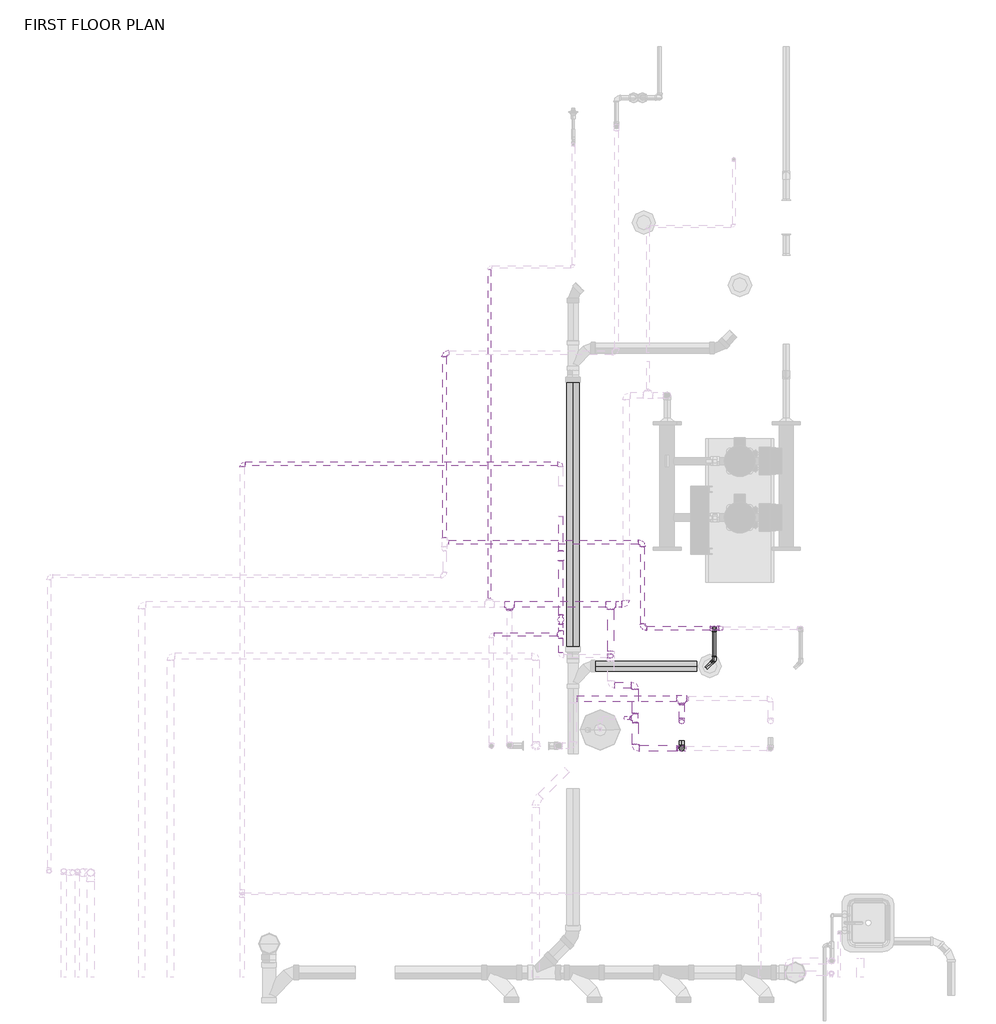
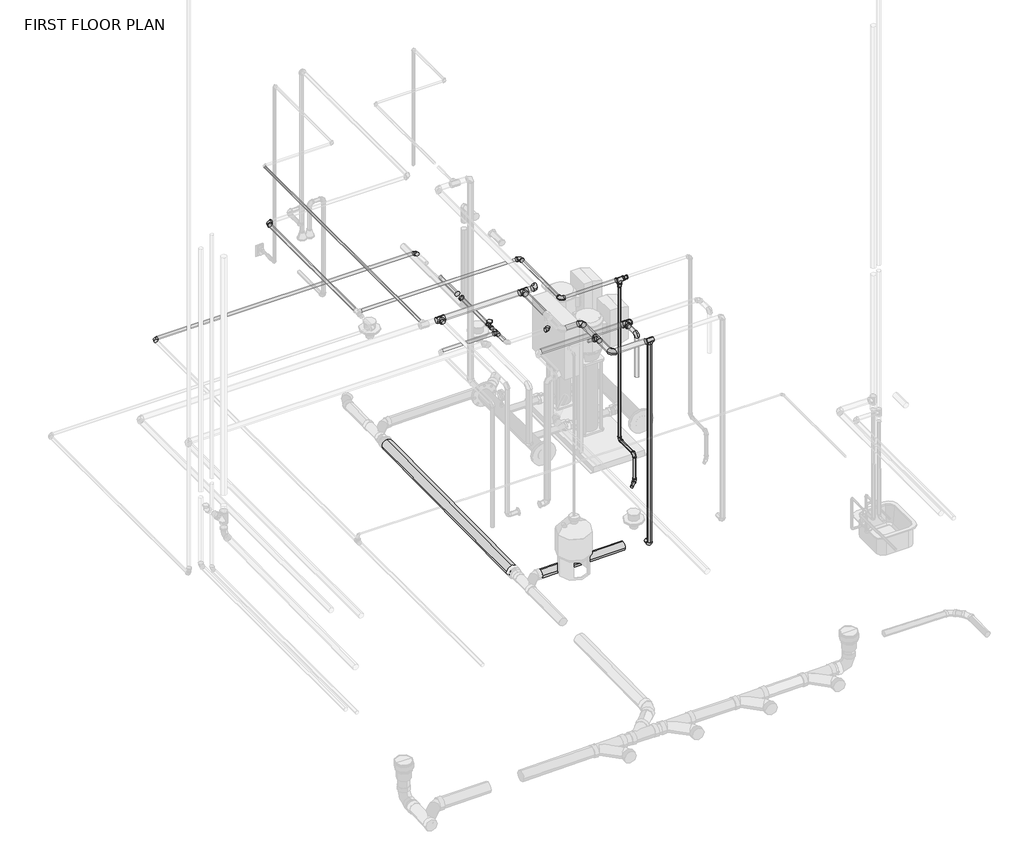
# One storey, part 19 of 29: 32 pipe fittings, 30 pipe segments, 1 valve.
"""IFC4 building model written with IfcOpenShell, lengths in millimetres."""

from ifc_helpers import new_model, si_unit, point, frame, frame_2d, origin, place, context, project, spatial, circle_curve, trimmed, segment, composite_curve, outline, extrude, transform, mapped, element, save
from components import coupling_concentric_reducing_threaded_mi_class_150_standard_65733dbc, elbow_threaded_mi_class_150_standard_9e2fd9b8, elbow_threaded_mi_class_150_standard_46a92b09, pipe_elbow_copper_k_ef41bb3a, pipe_elbow_copper_k_764eecca, pipe_elbow_copper_k_aee2f062, pipe_elbow_copper_k_8886f3b6, pipe_tee_copper_k_36278b8a, pipe_tee_copper_k_7127fd44, pipe_tee_copper_k_60c871d1, pipe_transition_copper_k_c7248b3c, pipe_transition_copper_k_3b8d3413, pipe_transition_copper_k_b52e50c0, pipe_transition_copper_k_77f86d4a, pipe_transition_copper_k_a267e643, tee_threaded_mi_class_150_standard_96690291, valve_95e27cf5

model = new_model("IFC4")

# Units and contexts
model_context = context("Model", 3, world=origin())
ifc_project = project(units=[si_unit("LENGTHUNIT", "METRE", prefix="MILLI")], contexts=[model_context])

# Site, building, storey
site = spatial("IfcSite", under=ifc_project)
building = spatial("IfcBuilding", under=site)
storey = spatial("IfcBuildingStorey", under=building, Name="FIRST FLOOR PLAN", Elevation=0.0)

# Pipe fittings
placement = place(None, origin())
coupling_concentric_reducing_threaded_mi_class_150_standard_shape = coupling_concentric_reducing_threaded_mi_class_150_standard_65733dbc(model_context)
element("IfcPipeFitting", 1, ObjectType="Coupling Concentric Reducing - Threaded - MI - Class 150 : Standard", at=placement, inside=storey, context=model_context, shape_type="MappedRepresentation", body=[
    mapped(coupling_concentric_reducing_threaded_mi_class_150_standard_shape, transform((15904.1804028, 11079.5921575, 2400.3), x_axis=(0.0, 0.0, -1.0), y_axis=(1.0, 0.0, 0.0), z_axis=(0.0, -1.0, 0.0))),
])
element("IfcPipeFitting", 2, ObjectType="Coupling Concentric Reducing - Threaded - MI - Class 150 : Standard", at=placement, inside=storey, context=model_context, shape_type="MappedRepresentation", body=[
    mapped(coupling_concentric_reducing_threaded_mi_class_150_standard_shape, transform((15942.2804028, 11079.5921575, 2438.4), x_axis=(1.0, 0.0, 0.0), y_axis=(0.0, 1.0, 0.0), z_axis=(0.0, 0.0, 1.0))),
])
elbow_threaded_mi_class_150_standard_shape = elbow_threaded_mi_class_150_standard_9e2fd9b8(model_context)
element("IfcPipeFitting", 3, ObjectType="Elbow - Threaded - MI - Class 150 : Standard", at=placement, inside=storey, context=model_context, shape_type="MappedRepresentation", body=[
    mapped(elbow_threaded_mi_class_150_standard_shape, transform((13511.8066918, 13522.1677357, 2438.4), x_axis=(-1.0, 0.0, 0.0), y_axis=(0.0, -1.0, 0.0), z_axis=(0.0, 0.0, 1.0))),
])
element("IfcPipeFitting", 4, ObjectType="Elbow - Threaded - MI - Class 150 : Standard", at=placement, inside=storey, context=model_context, shape_type="MappedRepresentation", body=[
    mapped(elbow_threaded_mi_class_150_standard_shape, transform((15267.5141549, 11841.5921575, 2438.4), x_axis=(0.0, 1.0, 0.0), y_axis=(-1.0, 0.0, 0.0), z_axis=(0.0, 0.0, 1.0))),
])
element("IfcPipeFitting", 5, ObjectType="Elbow - Threaded - MI - Class 150 : Standard", at=placement, inside=storey, context=model_context, shape_type="MappedRepresentation", body=[
    mapped(elbow_threaded_mi_class_150_standard_shape, transform((15267.5141549, 11079.5921575, 2438.4), x_axis=(0.0, -1.0, 0.0), y_axis=(1.0, 0.0, 0.0), z_axis=(0.0, 0.0, 1.0))),
])
elbow_threaded_mi_class_150_standard_2_shape = elbow_threaded_mi_class_150_standard_46a92b09(model_context)
element("IfcPipeFitting", 6, ObjectType="Elbow - Threaded - MI - Class 150 : Standard", at=placement, inside=storey, context=model_context, shape_type="MappedRepresentation", body=[
    mapped(elbow_threaded_mi_class_150_standard_2_shape, transform((15904.1804028, 11079.5921575, 609.6), x_axis=(0.0, 0.0, -1.0), y_axis=(0.0, -1.0, 0.0), z_axis=(-1.0, 0.0, 0.0))),
])
element("IfcPipeFitting", 7, ObjectType="Elbow - Threaded - MI - Class 150 : Standard", at=placement, inside=storey, context=model_context, shape_type="MappedRepresentation", body=[
    mapped(elbow_threaded_mi_class_150_standard_2_shape, transform((15904.1804028, 10798.9517649, 609.6), x_axis=(0.0, -1.0, 0.0), y_axis=(0.0, 0.0, -1.0), z_axis=(1.0, 0.0, 0.0))),
])
element("IfcPipeFitting", 8, ObjectType="Elbow - Threaded - MI - Class 150 : Standard", at=placement, inside=storey, context=model_context, shape_type="MappedRepresentation", body=[
    mapped(elbow_threaded_mi_class_150_standard_2_shape, transform((15904.1804028, 10798.9517649, 304.8), x_axis=(0.0, 0.0, -1.0), y_axis=(-0.7071067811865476, -0.7071067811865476, 0.0), z_axis=(-0.7071067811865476, 0.7071067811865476, 0.0))),
])
pipe_elbow_copper_k_shape = pipe_elbow_copper_k_ef41bb3a(model_context)
element("IfcPipeFitting", 9, ObjectType="Pipe Elbow : Copper- K", at=placement, inside=storey, context=model_context, shape_type="MappedRepresentation", body=[
    mapped(pipe_elbow_copper_k_shape, transform((15614.8481736, 10252.0984616, 2414.5037698), x_axis=(0.0, 0.0, 1.0), y_axis=(0.0, 1.0, 0.0), z_axis=(-1.0, 0.0, 0.0))),
])
pipe_elbow_copper_k_2_shape = pipe_elbow_copper_k_764eecca(model_context)
element("IfcPipeFitting", 10, ObjectType="Pipe Elbow : Copper- K", at=placement, inside=storey, context=model_context, shape_type="MappedRepresentation", body=[
    mapped(pipe_elbow_copper_k_2_shape, transform((15202.6324201, 10014.086218, 2490.6982599), x_axis=(0.0, -0.9999999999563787, 9.34038010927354e-06), y_axis=(1.0, 0.0, 0.0), z_axis=(0.0, 9.34038010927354e-06, 0.9999999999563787))),
])
element("IfcPipeFitting", 11, ObjectType="Pipe Elbow : Copper- K", at=placement, inside=storey, context=model_context, shape_type="MappedRepresentation", body=[
    mapped(pipe_elbow_copper_k_2_shape, transform((15202.6324201, 10574.8699379, 2490.689426), x_axis=(0.0, 0.9999999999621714, -8.698119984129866e-06), y_axis=(-0.9999999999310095, -1.0217276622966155e-10, -1.1746534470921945e-05), z_axis=(-1.17465344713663e-05, 8.698119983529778e-06, 0.9999999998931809))),
])
element("IfcPipeFitting", 12, ObjectType="Pipe Elbow : Copper- K", at=placement, inside=storey, context=model_context, shape_type="MappedRepresentation", body=[
    mapped(pipe_elbow_copper_k_2_shape, transform((15121.1356736, 11290.0175381, 2490.6882844), x_axis=(0.9999999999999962, 0.0, 8.718107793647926e-08), y_axis=(0.0, 0.9999999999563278, -9.345825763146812e-06), z_axis=(-8.718107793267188e-08, 9.345825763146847e-06, 0.999999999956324))),
])
pipe_elbow_copper_k_3_shape = pipe_elbow_copper_k_aee2f062(model_context)
element("IfcPipeFitting", 13, ObjectType="Pipe Elbow : Copper- K", at=placement, inside=storey, context=model_context, shape_type="MappedRepresentation", body=[
    mapped(pipe_elbow_copper_k_3_shape, transform((11717.5356736, 12535.6137881, 2336.8), x_axis=(-1.0, 0.0, 0.0), y_axis=(0.0, -1.0, 0.0), z_axis=(0.0, 0.0, 1.0))),
])
element("IfcPipeFitting", 14, ObjectType="Pipe Elbow : Copper- K", at=placement, inside=storey, context=model_context, shape_type="MappedRepresentation", body=[
    mapped(pipe_elbow_copper_k_3_shape, transform((14543.6141549, 12535.6137881, 2336.8), x_axis=(0.0, 1.0, 0.0), y_axis=(-1.0, 0.0, 0.0), z_axis=(0.0, 0.0, 1.0))),
])
element("IfcPipeFitting", 15, ObjectType="Pipe Elbow : Copper- K", at=placement, inside=storey, context=model_context, shape_type="MappedRepresentation", body=[
    mapped(pipe_elbow_copper_k_3_shape, transform((14986.1084875, 10833.0897034, 2336.8), x_axis=(0.0, 0.0, -1.0), y_axis=(-1.0, 0.0, 0.0), z_axis=(0.0, 1.0, 0.0))),
])
pipe_elbow_copper_k_4_shape = pipe_elbow_copper_k_8886f3b6(model_context)
element("IfcPipeFitting", 16, ObjectType="Pipe Elbow : Copper- K", at=placement, inside=storey, context=model_context, shape_type="MappedRepresentation", body=[
    mapped(pipe_elbow_copper_k_4_shape, transform((15614.8481736, 10014.0854659, 160.02), x_axis=(0.0, -3.278364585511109e-07, -0.9999999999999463), y_axis=(0.0, 0.9999999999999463, -3.278364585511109e-07), z_axis=(1.0, 0.0, 0.0))),
])
pipe_tee_copper_k_shape = pipe_tee_copper_k_36278b8a(model_context)
element("IfcPipeFitting", 17, ObjectType="Pipe Tee : Copper- K", at=placement, inside=storey, context=model_context, shape_type="MappedRepresentation", body=[
    mapped(pipe_tee_copper_k_shape, transform((15614.8481736, 10455.3394457, 2413.0), x_axis=(1.0, 0.0, 0.0), y_axis=(0.0, 0.9999998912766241, 0.0004663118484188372), z_axis=(0.0, -0.0004663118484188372, 0.9999998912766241))),
])
element("IfcPipeFitting", 18, ObjectType="Pipe Tee : Copper- K", at=placement, inside=storey, context=model_context, shape_type="MappedRepresentation", body=[
    mapped(pipe_tee_copper_k_shape, transform((14986.1084875, 11290.0175381, 2490.6882727), x_axis=(0.9999999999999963, 0.0, 8.718104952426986e-08), y_axis=(0.0, 0.9999999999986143, 1.66482462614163e-06), z_axis=(-8.718104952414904e-08, -1.664824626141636e-06, 0.9999999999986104))),
])
element("IfcPipeFitting", 19, ObjectType="Pipe Tee : Copper- K", at=placement, inside=storey, context=model_context, shape_type="MappedRepresentation", body=[
    mapped(pipe_tee_copper_k_shape, transform((14088.7887855, 11290.0175381, 2490.6882449), x_axis=(0.9999999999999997, 0.0, 2.8094546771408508e-08), y_axis=(0.0, 1.0, -1.6765756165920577e-08), z_axis=(-2.8094546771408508e-08, 1.6765756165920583e-08, 0.9999999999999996))),
])
pipe_tee_copper_k_2_shape = pipe_tee_copper_k_7127fd44(model_context)
element("IfcPipeFitting", 20, ObjectType="Pipe Tee : Copper- K", at=placement, inside=storey, context=model_context, shape_type="MappedRepresentation", body=[
    mapped(pipe_tee_copper_k_2_shape, transform((15614.8481736, 10014.086218, 2490.7000626), x_axis=(1.0, 0.0, 0.0), y_axis=(0.0, 0.0, 1.0), z_axis=(0.0, -1.0, 0.0))),
])
element("IfcPipeFitting", 21, ObjectType="Pipe Tee : Copper- K", at=placement, inside=storey, context=model_context, shape_type="MappedRepresentation", body=[
    mapped(pipe_tee_copper_k_2_shape, transform((15202.6324201, 10282.5918722, 2490.695752), x_axis=(0.0, -0.9999999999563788, 9.340380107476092e-06), y_axis=(1.0000000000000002, 0.0, 0.0), z_axis=(0.0, 9.340380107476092e-06, 0.9999999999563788))),
])
pipe_tee_copper_k_3_shape = pipe_tee_copper_k_60c871d1(model_context)
element("IfcPipeFitting", 22, ObjectType="Pipe Tee : Copper- K", at=placement, inside=storey, context=model_context, shape_type="MappedRepresentation", body=[
    mapped(pipe_tee_copper_k_3_shape, transform((14543.6141549, 11023.3898528, 2336.8), x_axis=(0.0, 1.0, 0.0), y_axis=(1.0, 0.0, 0.0), z_axis=(0.0, 0.0, -1.0))),
])
pipe_transition_copper_k_shape = pipe_transition_copper_k_c7248b3c(model_context)
element("IfcPipeFitting", 23, ObjectType="Pipe Transition : Copper- K", at=placement, inside=storey, context=model_context, shape_type="MappedRepresentation", body=[
    mapped(pipe_transition_copper_k_shape, transform((15578.3356736, 10014.086218, 2490.7000626), x_axis=(-1.0, 0.0, 0.0), y_axis=(0.0, -1.0, 0.0), z_axis=(0.0, 0.0, 1.0))),
])
element("IfcPipeFitting", 24, ObjectType="Pipe Transition : Copper- K", at=placement, inside=storey, context=model_context, shape_type="MappedRepresentation", body=[
    mapped(pipe_transition_copper_k_shape, transform((15202.6324201, 10319.1043722, 2490.695411), x_axis=(0.0, 0.9999999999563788, -9.340380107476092e-06), y_axis=(-1.0000000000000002, 0.0, 0.0), z_axis=(0.0, 9.340380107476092e-06, 0.9999999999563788))),
])
element("IfcPipeFitting", 25, ObjectType="Pipe Transition : Copper- K", at=placement, inside=storey, context=model_context, shape_type="MappedRepresentation", body=[
    mapped(pipe_transition_copper_k_shape, transform((15202.6324201, 10246.0793722, 2490.696093), x_axis=(0.0, -0.9999999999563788, 9.340380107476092e-06), y_axis=(1.0000000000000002, 0.0, 0.0), z_axis=(0.0, 9.340380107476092e-06, 0.9999999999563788))),
])
pipe_transition_copper_k_2_shape = pipe_transition_copper_k_3b8d3413(model_context)
element("IfcPipeFitting", 26, ObjectType="Pipe Transition : Copper- K", at=placement, inside=storey, context=model_context, shape_type="MappedRepresentation", body=[
    mapped(pipe_transition_copper_k_2_shape, transform((15657.7106736, 10455.3394457, 2413.0), x_axis=(1.0, 0.0, 0.0), y_axis=(0.0, 0.9999998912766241, 0.0004663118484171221), z_axis=(0.0, -0.0004663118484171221, 0.9999998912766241))),
])
element("IfcPipeFitting", 27, ObjectType="Pipe Transition : Copper- K", at=placement, inside=storey, context=model_context, shape_type="MappedRepresentation", body=[
    mapped(pipe_transition_copper_k_2_shape, transform((15614.8481736, 10412.4769503, 2412.9800127), x_axis=(0.0, -0.9999998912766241, -0.0004663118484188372), y_axis=(1.0, 0.0, 0.0), z_axis=(0.0, -0.0004663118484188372, 0.9999998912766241))),
])
pipe_transition_copper_k_3_shape = pipe_transition_copper_k_b52e50c0(model_context)
element("IfcPipeFitting", 28, ObjectType="Pipe Transition : Copper- K", at=placement, inside=storey, context=model_context, shape_type="MappedRepresentation", body=[
    mapped(pipe_transition_copper_k_3_shape, transform((14543.6141549, 11766.890851, 2336.8), x_axis=(0.0, -1.0, 0.0), y_axis=(1.0, 0.0, 0.0), z_axis=(0.0, 0.0, 1.0))),
])
element("IfcPipeFitting", 29, ObjectType="Pipe Transition : Copper- K", at=placement, inside=storey, context=model_context, shape_type="MappedRepresentation", body=[
    mapped(pipe_transition_copper_k_3_shape, transform((14543.6141549, 11675.673101, 2336.8), x_axis=(0.0, 1.0, 0.0), y_axis=(-1.0, 0.0, 0.0), z_axis=(0.0, 0.0, 1.0))),
])
pipe_transition_copper_k_4_shape = pipe_transition_copper_k_77f86d4a(model_context)
element("IfcPipeFitting", 30, ObjectType="Pipe Transition : Copper- K", at=placement, inside=storey, context=model_context, shape_type="MappedRepresentation", body=[
    mapped(pipe_transition_copper_k_4_shape, transform((15166.1199201, 10282.5918722, 2490.695752), x_axis=(-1.0, 0.0, 0.0), y_axis=(0.0, -0.9999999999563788, 9.340380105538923e-06), z_axis=(0.0, 9.340380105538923e-06, 0.9999999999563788))),
])
pipe_transition_copper_k_5_shape = pipe_transition_copper_k_a267e643(model_context)
element("IfcPipeFitting", 31, ObjectType="Pipe Transition : Copper- K", at=placement, inside=storey, context=model_context, shape_type="MappedRepresentation", body=[
    mapped(pipe_transition_copper_k_5_shape, transform((14088.7887855, 11247.1550381, 2490.6882456), x_axis=(0.0, -1.0, 1.6765756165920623e-08), y_axis=(0.9999999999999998, 0.0, 2.8094544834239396e-08), z_axis=(-2.8094544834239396e-08, 1.6765756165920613e-08, 0.9999999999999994))),
])
tee_threaded_mi_class_150_standard_shape = tee_threaded_mi_class_150_standard_96690291(model_context)
element("IfcPipeFitting", 32, ObjectType="Tee - Threaded - MI - Class 150 : Standard", at=placement, inside=storey, context=model_context, shape_type="MappedRepresentation", body=[
    mapped(tee_threaded_mi_class_150_standard_shape, transform((15904.1804028, 11079.5921575, 2438.4), x_axis=(-1.0, 0.0, 0.0), y_axis=(0.0, 0.0, 1.0), z_axis=(0.0, 1.0, 0.0))),
])

# Pipe segments
element("IfcPipeSegment", 33, ObjectType="Black Iron - GAS", at=placement, inside=storey, context=model_context, shape_type="SweptSolid", body=[
    extrude(outline(composite_curve([segment(trimmed(circle_curve(frame_2d((11841.5921575, 2438.4)), 16.7005), [point((11824.8916575, 2438.4))], [point((11841.5921575, 2455.1005))], False, "CARTESIAN"), True, "CONTINUOUS"), segment(trimmed(circle_curve(frame_2d((11841.5921575, 2438.4)), 16.7005), [point((11841.5921575, 2455.1005))], [point((11858.2926575, 2438.4))], False, "CARTESIAN"), True, "CONTINUOUS"), segment(trimmed(circle_curve(frame_2d((11841.5921575, 2438.4)), 16.7005), [point((11858.2926575, 2438.4))], [point((11841.5921575, 2421.6995))], False, "CARTESIAN"), True, "CONTINUOUS"), segment(trimmed(circle_curve(frame_2d((11841.5921575, 2438.4)), 16.7005), [point((11841.5921575, 2421.6995))], [point((11824.8916575, 2438.4))], False, "CARTESIAN"), True, "CONTINUOUS")], self_intersect=False)), frame((13549.9066918, 0.0, 0.0), z_axis=(1.0, 0.0, 0.0), x_axis=(0.0, 1.0, 0.0)), (0.0, 0.0, 1.0), 1679.5074631),
])
element("IfcPipeSegment", 34, ObjectType="Black Iron - GAS", at=placement, inside=storey, context=model_context, shape_type="SweptSolid", body=[
    extrude(outline(composite_curve([segment(trimmed(circle_curve(frame_2d((2438.4, 13511.8066918)), 16.7005), [point((2438.4, 13495.1061918))], [point((2421.6995, 13511.8066918))], False, "CARTESIAN"), True, "CONTINUOUS"), segment(trimmed(circle_curve(frame_2d((2438.4, 13511.8066918)), 16.7005), [point((2421.6995, 13511.8066918))], [point((2438.4, 13528.5071918))], False, "CARTESIAN"), True, "CONTINUOUS"), segment(trimmed(circle_curve(frame_2d((2438.4, 13511.8066918)), 16.7005), [point((2438.4, 13528.5071918))], [point((2455.1005, 13511.8066918))], False, "CARTESIAN"), True, "CONTINUOUS"), segment(trimmed(circle_curve(frame_2d((2438.4, 13511.8066918)), 16.7005), [point((2455.1005, 13511.8066918))], [point((2438.4, 13495.1061918))], False, "CARTESIAN"), True, "CONTINUOUS")], self_intersect=False)), frame((0.0, 11879.6921575, 0.0), z_axis=(0.0, 1.0, 0.0), x_axis=(0.0, 0.0, 1.0)), (0.0, 0.0, 1.0), 1604.3755782),
])
element("IfcPipeSegment", 35, ObjectType="Black Iron - GAS", at=placement, inside=storey, context=model_context, shape_type="SweptSolid", body=[
    extrude(outline(composite_curve([segment(trimmed(circle_curve(frame_2d((2438.4, 15267.5141549)), 16.7005), [point((2438.4, 15250.8136549))], [point((2421.6995, 15267.5141549))], False, "CARTESIAN"), True, "CONTINUOUS"), segment(trimmed(circle_curve(frame_2d((2438.4, 15267.5141549)), 16.7005), [point((2421.6995, 15267.5141549))], [point((2438.4, 15284.2146549))], False, "CARTESIAN"), True, "CONTINUOUS"), segment(trimmed(circle_curve(frame_2d((2438.4, 15267.5141549)), 16.7005), [point((2438.4, 15284.2146549))], [point((2455.1005, 15267.5141549))], False, "CARTESIAN"), True, "CONTINUOUS"), segment(trimmed(circle_curve(frame_2d((2438.4, 15267.5141549)), 16.7005), [point((2455.1005, 15267.5141549))], [point((2438.4, 15250.8136549))], False, "CARTESIAN"), True, "CONTINUOUS")], self_intersect=False)), frame((0.0, 11117.6921575, 0.0), z_axis=(0.0, 1.0, 0.0), x_axis=(0.0, 0.0, 1.0)), (0.0, 0.0, 1.0), 685.8),
])
element("IfcPipeSegment", 36, ObjectType="Black Iron - GAS", at=placement, inside=storey, context=model_context, shape_type="SweptSolid", body=[
    extrude(outline(composite_curve([segment(trimmed(circle_curve(frame_2d((609.6, 15904.1804028)), 13.335), [point((609.6, 15890.8454028))], [point((596.265, 15904.1804028))], False, "CARTESIAN"), True, "CONTINUOUS"), segment(trimmed(circle_curve(frame_2d((609.6, 15904.1804028)), 13.335), [point((596.265, 15904.1804028))], [point((609.6, 15917.5154028))], False, "CARTESIAN"), True, "CONTINUOUS"), segment(trimmed(circle_curve(frame_2d((609.6, 15904.1804028)), 13.335), [point((609.6, 15917.5154028))], [point((622.935, 15904.1804028))], False, "CARTESIAN"), True, "CONTINUOUS"), segment(trimmed(circle_curve(frame_2d((609.6, 15904.1804028)), 13.335), [point((622.935, 15904.1804028))], [point((609.6, 15890.8454028))], False, "CARTESIAN"), True, "CONTINUOUS")], self_intersect=False)), frame((0.0, 10832.2517649, 0.0), z_axis=(0.0, 1.0, 0.0), x_axis=(0.0, 0.0, 1.0)), (0.0, 0.0, 1.0), 214.0403926),
])
element("IfcPipeSegment", 37, ObjectType="Black Iron - GAS", at=placement, inside=storey, context=model_context, shape_type="SweptSolid", body=[
    extrude(outline(composite_curve([segment(trimmed(circle_curve(frame_2d((15904.1804028, 11079.5921575)), 13.335), [point((15917.5154028, 11079.5921575))], [point((15904.1804028, 11066.2571575))], False, "CARTESIAN"), True, "CONTINUOUS"), segment(trimmed(circle_curve(frame_2d((15904.1804028, 11079.5921575)), 13.335), [point((15904.1804028, 11066.2571575))], [point((15890.8454028, 11079.5921575))], False, "CARTESIAN"), True, "CONTINUOUS"), segment(trimmed(circle_curve(frame_2d((15904.1804028, 11079.5921575)), 13.335), [point((15890.8454028, 11079.5921575))], [point((15904.1804028, 11092.9271575))], False, "CARTESIAN"), True, "CONTINUOUS"), segment(trimmed(circle_curve(frame_2d((15904.1804028, 11079.5921575)), 13.335), [point((15904.1804028, 11092.9271575))], [point((15917.5154028, 11079.5921575))], False, "CARTESIAN"), True, "CONTINUOUS")], self_intersect=False)), frame((0.0, 0.0, 642.9), z_axis=(0.0, 0.0, 1.0), x_axis=(1.0, 0.0, 0.0)), (0.0, 0.0, 1.0), 1714.5),
])
element("IfcPipeSegment", 38, ObjectType="Black Iron - GAS", at=placement, inside=storey, context=model_context, shape_type="SweptSolid", body=[
    extrude(outline(composite_curve([segment(trimmed(circle_curve(frame_2d((11079.5921575, 2438.4)), 16.7005), [point((11062.8916575, 2438.4))], [point((11079.5921575, 2455.1005))], False, "CARTESIAN"), True, "CONTINUOUS"), segment(trimmed(circle_curve(frame_2d((11079.5921575, 2438.4)), 16.7005), [point((11079.5921575, 2455.1005))], [point((11096.2926575, 2438.4))], False, "CARTESIAN"), True, "CONTINUOUS"), segment(trimmed(circle_curve(frame_2d((11079.5921575, 2438.4)), 16.7005), [point((11096.2926575, 2438.4))], [point((11079.5921575, 2421.6995))], False, "CARTESIAN"), True, "CONTINUOUS"), segment(trimmed(circle_curve(frame_2d((11079.5921575, 2438.4)), 16.7005), [point((11079.5921575, 2421.6995))], [point((11062.8916575, 2438.4))], False, "CARTESIAN"), True, "CONTINUOUS")], self_intersect=False)), frame((15305.6141549, 0.0, 0.0), z_axis=(1.0, 0.0, 0.0), x_axis=(0.0, 1.0, 0.0)), (0.0, 0.0, 1.0), 560.4662479),
])
element("IfcPipeSegment", 39, ObjectType="Black Iron - GAS", at=placement, inside=storey, context=model_context, shape_type="SweptSolid", body=[
    extrude(outline(composite_curve([segment(trimmed(circle_curve(frame_2d((0.0, -13.335)), 13.335), [point((-13.335, -13.335))], [point((0.0, 0.0))], False, "CARTESIAN"), True, "CONTINUOUS"), segment(trimmed(circle_curve(frame_2d((0.0, -13.335)), 13.335), [point((0.0, 0.0))], [point((13.335, -13.335))], False, "CARTESIAN"), True, "CONTINUOUS"), segment(trimmed(circle_curve(frame_2d((0.0, -13.335)), 13.335), [point((13.335, -13.335))], [point((0.0, -26.67))], False, "CARTESIAN"), True, "CONTINUOUS"), segment(trimmed(circle_curve(frame_2d((0.0, -13.335)), 13.335), [point((0.0, -26.67))], [point((-13.335, -13.335))], False, "CARTESIAN"), True, "CONTINUOUS")], self_intersect=False)), frame((15832.3383539, 10727.109716, 291.465), z_axis=(0.7071067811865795, 0.7071067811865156, 0.0), x_axis=(0.7071067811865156, -0.7071067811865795, 0.0)), (0.0, 0.0, 1.0), 68.3),
])
element("IfcPipeSegment", 40, ObjectType="Black Iron - GAS", at=placement, inside=storey, context=model_context, shape_type="SweptSolid", body=[
    extrude(outline(composite_curve([segment(trimmed(circle_curve(frame_2d((15904.1804028, 10798.9517649)), 13.335), [point((15917.5154028, 10798.9517649))], [point((15904.1804028, 10785.6167649))], False, "CARTESIAN"), True, "CONTINUOUS"), segment(trimmed(circle_curve(frame_2d((15904.1804028, 10798.9517649)), 13.335), [point((15904.1804028, 10785.6167649))], [point((15890.8454028, 10798.9517649))], False, "CARTESIAN"), True, "CONTINUOUS"), segment(trimmed(circle_curve(frame_2d((15904.1804028, 10798.9517649)), 13.335), [point((15890.8454028, 10798.9517649))], [point((15904.1804028, 10812.2867649))], False, "CARTESIAN"), True, "CONTINUOUS"), segment(trimmed(circle_curve(frame_2d((15904.1804028, 10798.9517649)), 13.335), [point((15904.1804028, 10812.2867649))], [point((15917.5154028, 10798.9517649))], False, "CARTESIAN"), True, "CONTINUOUS")], self_intersect=False)), frame((0.0, 0.0, 338.1), z_axis=(0.0, 0.0, 1.0), x_axis=(1.0, 0.0, 0.0)), (0.0, 0.0, 1.0), 238.2),
])
element("IfcPipeSegment", 41, ObjectType="Copper", at=placement, inside=storey, context=model_context, shape_type="SweptSolid", body=[
    extrude(outline(composite_curve([segment(trimmed(circle_curve(frame_2d((0.0, 20.6375)), 20.6375), [point((0.0, 41.275))], [point((20.6375, 20.6375))], False, "CARTESIAN"), True, "CONTINUOUS"), segment(trimmed(circle_curve(frame_2d((0.0, 20.6375)), 20.6375), [point((20.6375, 20.6375))], [point((0.0, 0.0))], False, "CARTESIAN"), True, "CONTINUOUS"), segment(trimmed(circle_curve(frame_2d((0.0, 20.6375)), 20.6375), [point((0.0, 0.0))], [point((-20.6375, 20.6375))], False, "CARTESIAN"), True, "CONTINUOUS"), segment(trimmed(circle_curve(frame_2d((0.0, 20.6375)), 20.6375), [point((-20.6375, 20.6375))], [point((0.0, 41.275))], False, "CARTESIAN"), True, "CONTINUOUS")], self_intersect=False)), frame((15594.2106736, 10044.2479758, 160.02), z_axis=(2.1355635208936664e-11, 1.0, 0.0), x_axis=(0.0, 0.0, 1.0)), (0.0, 0.0, 1.0), 39.6874901),
])
element("IfcPipeSegment", 42, ObjectType="Copper", at=placement, inside=storey, context=model_context, shape_type="SweptSolid", body=[
    extrude(outline(composite_curve([segment(trimmed(circle_curve(frame_2d((0.0, 20.6375)), 20.6375), [point((-20.6375, 20.6375))], [point((0.0, 41.275))], False, "CARTESIAN"), True, "CONTINUOUS"), segment(trimmed(circle_curve(frame_2d((0.0, 20.6375)), 20.6375), [point((0.0, 41.275))], [point((20.6375, 20.6375))], False, "CARTESIAN"), True, "CONTINUOUS"), segment(trimmed(circle_curve(frame_2d((0.0, 20.6375)), 20.6375), [point((20.6375, 20.6375))], [point((0.0, 0.0))], False, "CARTESIAN"), True, "CONTINUOUS"), segment(trimmed(circle_curve(frame_2d((0.0, 20.6375)), 20.6375), [point((0.0, 0.0))], [point((-20.6375, 20.6375))], False, "CARTESIAN"), True, "CONTINUOUS")], self_intersect=False)), frame((15614.8481736, 9993.4479758, 190.1825167), z_axis=(0.0, 3.2783646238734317e-07, 0.9999999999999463), x_axis=(1.0, 0.0, 0.0)), (0.0, 0.0, 1.0), 2264.0050527),
])
element("IfcPipeSegment", 43, ObjectType="Copper", at=placement, inside=storey, context=model_context, shape_type="SweptSolid", body=[
    extrude(outline(composite_curve([segment(trimmed(circle_curve(frame_2d((0.0, 20.6375)), 20.6375), [point((-20.6375, 20.6375))], [point((0.0, 41.275))], False, "CARTESIAN"), True, "CONTINUOUS"), segment(trimmed(circle_curve(frame_2d((0.0, 20.6375)), 20.6375), [point((0.0, 41.275))], [point((20.6375, 20.6375))], False, "CARTESIAN"), True, "CONTINUOUS"), segment(trimmed(circle_curve(frame_2d((0.0, 20.6375)), 20.6375), [point((20.6375, 20.6375))], [point((0.0, 0.0))], False, "CARTESIAN"), True, "CONTINUOUS"), segment(trimmed(circle_curve(frame_2d((0.0, 20.6375)), 20.6375), [point((0.0, 0.0))], [point((-20.6375, 20.6375))], False, "CARTESIAN"), True, "CONTINUOUS")], self_intersect=False)), frame((15614.8481736, 10231.4690916, 1930.3996301), z_axis=(0.0, -1.7922245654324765e-05, 0.9999999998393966), x_axis=(1.0, 0.0, 0.0)), (0.0, 0.0, 1.0), 453.6254408),
])
element("IfcPipeSegment", 44, ObjectType="Copper", at=placement, inside=storey, context=model_context, shape_type="SweptSolid", body=[
    extrude(outline(composite_curve([segment(trimmed(circle_curve(frame_2d((0.0, -20.6375)), 20.6375), [point((20.6375, -20.6375))], [point((0.0, -41.2749999))], False, "CARTESIAN"), True, "CONTINUOUS"), segment(trimmed(circle_curve(frame_2d((0.0, -20.6375)), 20.6375), [point((0.0, -41.2749999))], [point((-20.6375, -20.6375))], False, "CARTESIAN"), True, "CONTINUOUS"), segment(trimmed(circle_curve(frame_2d((0.0, -20.6375)), 20.6375), [point((-20.6375, -20.6375))], [point((0.0, 0.0))], False, "CARTESIAN"), True, "CONTINUOUS"), segment(trimmed(circle_curve(frame_2d((0.0, -20.6375)), 20.6375), [point((0.0, 0.0))], [point((20.6375, -20.6375))], False, "CARTESIAN"), True, "CONTINUOUS")], self_intersect=False)), frame((15614.8481736, 10399.1981641, 2433.6101008), z_axis=(0.0, -0.9999457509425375, 0.01041610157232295), x_axis=(1.0, 0.0, 0.0)), (0.0, 0.0, 1.0), 116.4143799),
])
element("IfcPipeSegment", 45, ObjectType="Copper", at=placement, inside=storey, context=model_context, shape_type="SweptSolid", body=[
    extrude(outline(composite_curve([segment(trimmed(circle_curve(frame_2d((10014.086218, 2490.7000626)), 26.9875), [point((10041.073718, 2490.7000626))], [point((10014.086218, 2463.7125626))], False, "CARTESIAN"), True, "CONTINUOUS"), segment(trimmed(circle_curve(frame_2d((10014.086218, 2490.7000626)), 26.9875), [point((10014.086218, 2463.7125626))], [point((9987.098718, 2490.7000626))], False, "CARTESIAN"), True, "CONTINUOUS"), segment(trimmed(circle_curve(frame_2d((10014.086218, 2490.7000626)), 26.9875), [point((9987.098718, 2490.7000626))], [point((10014.086218, 2517.6875626))], False, "CARTESIAN"), True, "CONTINUOUS"), segment(trimmed(circle_curve(frame_2d((10014.086218, 2490.7000626)), 26.9875), [point((10014.086218, 2517.6875626))], [point((10041.073718, 2490.7000626))], False, "CARTESIAN"), True, "CONTINUOUS")], self_intersect=False)), frame((15239.1449201, 0.0, 0.0), z_axis=(1.0, 0.0, 0.0), x_axis=(0.0, 1.0, 0.0)), (0.0, 0.0, 1.0), 332.4438785),
])
element("IfcPipeSegment", 46, ObjectType="Copper", at=placement, inside=storey, context=model_context, shape_type="SweptSolid", body=[
    extrude(outline(composite_curve([segment(trimmed(circle_curve(frame_2d((2490.6882422, 14986.1084875)), 26.9875), [point((2490.6882422, 15013.0959875))], [point((2517.6757422, 14986.1084875))], False, "CARTESIAN"), True, "CONTINUOUS"), segment(trimmed(circle_curve(frame_2d((2490.6882422, 14986.1084875)), 26.9875), [point((2517.6757422, 14986.1084875))], [point((2490.6882422, 14959.1209875))], False, "CARTESIAN"), True, "CONTINUOUS"), segment(trimmed(circle_curve(frame_2d((2490.6882422, 14986.1084875)), 26.9875), [point((2490.6882422, 14959.1209875))], [point((2463.7007422, 14986.1084875))], False, "CARTESIAN"), True, "CONTINUOUS"), segment(trimmed(circle_curve(frame_2d((2490.6882422, 14986.1084875)), 26.9875), [point((2463.7007422, 14986.1084875))], [point((2490.6882422, 15013.0959875))], False, "CARTESIAN"), True, "CONTINUOUS")], self_intersect=False)), frame((0.0, 10875.9522034, 0.0), z_axis=(0.0, 1.0, 0.0), x_axis=(0.0, 0.0, 1.0)), (0.0, 0.0, 1.0), 371.2028347),
])
element("IfcPipeSegment", 47, ObjectType="Copper", at=placement, inside=storey, context=model_context, shape_type="SweptSolid", body=[
    extrude(outline(composite_curve([segment(trimmed(circle_curve(frame_2d((0.0, -11.1125)), 11.1125), [point((0.0, -22.225))], [point((-11.1125, -11.1125))], False, "CARTESIAN"), True, "CONTINUOUS"), segment(trimmed(circle_curve(frame_2d((0.0, -11.1125)), 11.1125), [point((-11.1125, -11.1125))], [point((0.0, 0.0))], False, "CARTESIAN"), True, "CONTINUOUS"), segment(trimmed(circle_curve(frame_2d((0.0, -11.1125)), 11.1125), [point((0.0, 0.0))], [point((11.1125, -11.1125))], False, "CARTESIAN"), True, "CONTINUOUS"), segment(trimmed(circle_curve(frame_2d((0.0, -11.1125)), 11.1125), [point((11.1125, -11.1125))], [point((0.0, -22.225))], False, "CARTESIAN"), True, "CONTINUOUS")], self_intersect=False)), frame((13899.3298859, 14261.9762881, 2490.6639841), z_axis=(0.0, -0.9999999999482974, 1.016883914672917e-05), x_axis=(0.0, 1.016883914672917e-05, 0.9999999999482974)), (0.0, 0.0, 1.0), 2915.6025001),
])
element("IfcPipeSegment", 48, ObjectType="Copper", at=placement, inside=storey, context=model_context, shape_type="SweptSolid", body=[
    extrude(outline(composite_curve([segment(trimmed(circle_curve(frame_2d((12535.6137881, 2336.8)), 17.4625), [point((12518.1512881, 2336.8))], [point((12535.6137881, 2354.2625))], False, "CARTESIAN"), True, "CONTINUOUS"), segment(trimmed(circle_curve(frame_2d((12535.6137881, 2336.8)), 17.4625), [point((12535.6137881, 2354.2625))], [point((12553.0762881, 2336.8))], False, "CARTESIAN"), True, "CONTINUOUS"), segment(trimmed(circle_curve(frame_2d((12535.6137881, 2336.8)), 17.4625), [point((12553.0762881, 2336.8))], [point((12535.6137881, 2319.3375))], False, "CARTESIAN"), True, "CONTINUOUS"), segment(trimmed(circle_curve(frame_2d((12535.6137881, 2336.8)), 17.4625), [point((12535.6137881, 2319.3375))], [point((12518.1512881, 2336.8))], False, "CARTESIAN"), True, "CONTINUOUS")], self_intersect=False)), frame((11744.5231736, 0.0, 0.0), z_axis=(1.0, 0.0, 0.0), x_axis=(0.0, 1.0, 0.0)), (0.0, 0.0, 1.0), 2772.1034813),
])
element("IfcPipeSegment", 49, ObjectType="Copper", at=placement, inside=storey, context=model_context, shape_type="SweptSolid", body=[
    extrude(outline(composite_curve([segment(trimmed(circle_curve(frame_2d((2336.8, 14543.6141549)), 17.4625), [point((2336.8, 14526.1516549))], [point((2319.3375, 14543.6141549))], False, "CARTESIAN"), True, "CONTINUOUS"), segment(trimmed(circle_curve(frame_2d((2336.8, 14543.6141549)), 17.4625), [point((2319.3375, 14543.6141549))], [point((2336.8, 14561.0766549))], False, "CARTESIAN"), True, "CONTINUOUS"), segment(trimmed(circle_curve(frame_2d((2336.8, 14543.6141549)), 17.4625), [point((2336.8, 14561.0766549))], [point((2354.2625, 14543.6141549))], False, "CARTESIAN"), True, "CONTINUOUS"), segment(trimmed(circle_curve(frame_2d((2336.8, 14543.6141549)), 17.4625), [point((2354.2625, 14543.6141549))], [point((2336.8, 14526.1516549))], False, "CARTESIAN"), True, "CONTINUOUS")], self_intersect=False)), frame((0.0, 11766.890851, 0.0), z_axis=(0.0, 1.0, 0.0), x_axis=(0.0, 0.0, 1.0)), (0.0, 0.0, 1.0), 306.2310426),
])
element("IfcPipeSegment", 50, ObjectType="Copper", at=placement, inside=storey, context=model_context, shape_type="SweptSolid", body=[
    extrude(outline(composite_curve([segment(trimmed(circle_curve(frame_2d((2490.6979189, 15202.6324201)), 26.9875), [point((2490.6979189, 15229.6199201))], [point((2517.6854189, 15202.6324201))], False, "CARTESIAN"), True, "CONTINUOUS"), segment(trimmed(circle_curve(frame_2d((2490.6979189, 15202.6324201)), 26.9875), [point((2517.6854189, 15202.6324201))], [point((2490.6979189, 15175.6449201))], False, "CARTESIAN"), True, "CONTINUOUS"), segment(trimmed(circle_curve(frame_2d((2490.6979189, 15202.6324201)), 26.9875), [point((2490.6979189, 15175.6449201))], [point((2463.7104189, 15202.6324201))], False, "CARTESIAN"), True, "CONTINUOUS"), segment(trimmed(circle_curve(frame_2d((2490.6979189, 15202.6324201)), 26.9875), [point((2463.7104189, 15202.6324201))], [point((2490.6979189, 15229.6199201))], False, "CARTESIAN"), True, "CONTINUOUS")], self_intersect=False)), frame((0.0, 10050.598718, 0.0), z_axis=(0.0, 1.0, 0.0), x_axis=(0.0, 0.0, 1.0)), (0.0, 0.0, 1.0), 188.7337793),
])
element("IfcPipeSegment", 51, ObjectType="Copper", at=placement, inside=storey, context=model_context, shape_type="SweptSolid", body=[
    extrude(outline(composite_curve([segment(trimmed(circle_curve(frame_2d((10282.5918721, 2490.6882812)), 14.2875), [point((10296.8793722, 2490.6882812))], [point((10282.5918722, 2476.4007812))], False, "CARTESIAN"), True, "CONTINUOUS"), segment(trimmed(circle_curve(frame_2d((10282.5918721, 2490.6882812)), 14.2875), [point((10282.5918722, 2476.4007812))], [point((10268.3043722, 2490.6882812))], False, "CARTESIAN"), True, "CONTINUOUS"), segment(trimmed(circle_curve(frame_2d((10282.5918721, 2490.6882812)), 14.2875), [point((10268.3043722, 2490.6882812))], [point((10282.5918722, 2504.9757812))], False, "CARTESIAN"), True, "CONTINUOUS"), segment(trimmed(circle_curve(frame_2d((10282.5918721, 2490.6882812)), 14.2875), [point((10282.5918722, 2504.9757812))], [point((10296.8793722, 2490.6882812))], False, "CARTESIAN"), True, "CONTINUOUS")], self_intersect=False)), frame((15106.1733549, 0.0, 0.0), z_axis=(1.0, 0.0, 0.0), x_axis=(0.0, 1.0, 0.0)), (0.0, 0.0, 1.0), 49.6278152),
])
element("IfcPipeSegment", 52, ObjectType="Copper", at=placement, inside=storey, context=model_context, shape_type="SweptSolid", body=[
    extrude(outline(composite_curve([segment(trimmed(circle_curve(frame_2d((0.0, -26.9875)), 26.9875), [point((0.0, -53.975))], [point((-26.9875, -26.9875))], False, "CARTESIAN"), True, "CONTINUOUS"), segment(trimmed(circle_curve(frame_2d((0.0, -26.9875)), 26.9875), [point((-26.9875, -26.9875))], [point((0.0, 0.0))], False, "CARTESIAN"), True, "CONTINUOUS"), segment(trimmed(circle_curve(frame_2d((0.0, -26.9875)), 26.9875), [point((0.0, 0.0))], [point((26.9875, -26.9875))], False, "CARTESIAN"), True, "CONTINUOUS"), segment(trimmed(circle_curve(frame_2d((0.0, -26.9875)), 26.9875), [point((26.9875, -26.9875))], [point((0.0, -53.975))], False, "CARTESIAN"), True, "CONTINUOUS")], self_intersect=False)), frame((15175.6449201, 10538.3574379, 2490.6897436), z_axis=(0.0, -0.9999999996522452, 2.6372516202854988e-05), x_axis=(0.0, 2.6372516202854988e-05, 0.9999999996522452)), (0.0, 0.0, 1.0), 212.5061907),
])
element("IfcPipeSegment", 53, ObjectType="Copper", at=placement, inside=storey, context=model_context, shape_type="SweptSolid", body=[
    extrude(outline(composite_curve([segment(trimmed(circle_curve(frame_2d((10574.8699379, 2490.6889971)), 26.9875), [point((10601.8574379, 2490.6889971))], [point((10574.8699379, 2463.7014971))], False, "CARTESIAN"), True, "CONTINUOUS"), segment(trimmed(circle_curve(frame_2d((10574.8699379, 2490.6889971)), 26.9875), [point((10574.8699379, 2463.7014971))], [point((10547.8824379, 2490.6889971))], False, "CARTESIAN"), True, "CONTINUOUS"), segment(trimmed(circle_curve(frame_2d((10574.8699379, 2490.6889971)), 26.9875), [point((10547.8824379, 2490.6889971))], [point((10574.8699379, 2517.6764971))], False, "CARTESIAN"), True, "CONTINUOUS"), segment(trimmed(circle_curve(frame_2d((10574.8699379, 2490.6889971)), 26.9875), [point((10574.8699379, 2517.6764971))], [point((10601.8574379, 2490.6889971))], False, "CARTESIAN"), True, "CONTINUOUS")], self_intersect=False)), frame((15022.6209875, 0.0, 0.0), z_axis=(1.0, 0.0, 0.0), x_axis=(0.0, 1.0, 0.0)), (0.0, 0.0, 1.0), 143.4989326),
])
element("IfcPipeSegment", 54, ObjectType="Copper", at=placement, inside=storey, context=model_context, shape_type="SweptSolid", body=[
    extrude(outline(composite_curve([segment(trimmed(circle_curve(frame_2d((11290.0175381, 2490.6882812)), 26.9875), [point((11317.0050381, 2490.6882812))], [point((11290.0175381, 2463.7007812))], False, "CARTESIAN"), True, "CONTINUOUS"), segment(trimmed(circle_curve(frame_2d((11290.0175381, 2490.6882812)), 26.9875), [point((11290.0175381, 2463.7007812))], [point((11263.0300381, 2490.6882812))], False, "CARTESIAN"), True, "CONTINUOUS"), segment(trimmed(circle_curve(frame_2d((11290.0175381, 2490.6882812)), 26.9875), [point((11263.0300381, 2490.6882812))], [point((11290.0175381, 2517.6757812))], False, "CARTESIAN"), True, "CONTINUOUS"), segment(trimmed(circle_curve(frame_2d((11290.0175381, 2490.6882812)), 26.9875), [point((11290.0175381, 2517.6757812))], [point((11317.0050381, 2490.6882812))], False, "CARTESIAN"), True, "CONTINUOUS")], self_intersect=False)), frame((15028.9709875, 0.0, 0.0), z_axis=(1.0, 0.0, 0.0), x_axis=(0.0, 1.0, 0.0)), (0.0, 0.0, 1.0), 55.6521861),
])
element("IfcPipeSegment", 55, ObjectType="Copper", at=placement, inside=storey, context=model_context, shape_type="SweptSolid", body=[
    extrude(outline(composite_curve([segment(trimmed(circle_curve(frame_2d((10455.3394457, 2413.0)), 26.9875), [point((10482.3269457, 2413.0))], [point((10455.3394457, 2386.0125))], False, "CARTESIAN"), True, "CONTINUOUS"), segment(trimmed(circle_curve(frame_2d((10455.3394457, 2413.0)), 26.9875), [point((10455.3394457, 2386.0125))], [point((10428.3519457, 2413.0))], False, "CARTESIAN"), True, "CONTINUOUS"), segment(trimmed(circle_curve(frame_2d((10455.3394457, 2413.0)), 26.9875), [point((10428.3519457, 2413.0))], [point((10455.3394457, 2439.9875))], False, "CARTESIAN"), True, "CONTINUOUS"), segment(trimmed(circle_curve(frame_2d((10455.3394457, 2413.0)), 26.9875), [point((10455.3394457, 2439.9875))], [point((10482.3269457, 2413.0))], False, "CARTESIAN"), True, "CONTINUOUS")], self_intersect=False)), frame((14689.467545, 0.0, 0.0), z_axis=(1.0, 0.0, 0.0), x_axis=(0.0, 1.0, 0.0)), (0.0, 0.0, 1.0), 882.5181286),
])
element("IfcPipeSegment", 56, ObjectType="Copper", at=placement, inside=storey, context=model_context, shape_type="SweptSolid", body=[
    extrude(outline(composite_curve([segment(trimmed(circle_curve(frame_2d((11290.0175381, 2490.6882689)), 26.9875), [point((11317.0050381, 2490.6882689))], [point((11290.0175381, 2463.7007689))], False, "CARTESIAN"), True, "CONTINUOUS"), segment(trimmed(circle_curve(frame_2d((11290.0175381, 2490.6882689)), 26.9875), [point((11290.0175381, 2463.7007689))], [point((11263.0300381, 2490.6882689))], False, "CARTESIAN"), True, "CONTINUOUS"), segment(trimmed(circle_curve(frame_2d((11290.0175381, 2490.6882689)), 26.9875), [point((11263.0300381, 2490.6882689))], [point((11290.0175381, 2517.6757689))], False, "CARTESIAN"), True, "CONTINUOUS"), segment(trimmed(circle_curve(frame_2d((11290.0175381, 2490.6882689)), 26.9875), [point((11290.0175381, 2517.6757689))], [point((11317.0050381, 2490.6882689))], False, "CARTESIAN"), True, "CONTINUOUS")], self_intersect=False)), frame((14131.6512855, 0.0, 0.0), z_axis=(1.0, 0.0, 0.0), x_axis=(0.0, 1.0, 0.0)), (0.0, 0.0, 1.0), 811.5947019),
])
element("IfcPipeSegment", 57, ObjectType="Copper", at=placement, inside=storey, context=model_context, shape_type="SweptSolid", body=[
    extrude(outline(composite_curve([segment(trimmed(circle_curve(frame_2d((2336.8, 14543.6141549)), 17.4625), [point((2336.8, 14526.1516549))], [point((2319.3375, 14543.6141549))], False, "CARTESIAN"), True, "CONTINUOUS"), segment(trimmed(circle_curve(frame_2d((2336.8, 14543.6141549)), 17.4625), [point((2319.3375, 14543.6141549))], [point((2336.8, 14561.0766549))], False, "CARTESIAN"), True, "CONTINUOUS"), segment(trimmed(circle_curve(frame_2d((2336.8, 14543.6141549)), 17.4625), [point((2336.8, 14561.0766549))], [point((2354.2625, 14543.6141549))], False, "CARTESIAN"), True, "CONTINUOUS"), segment(trimmed(circle_curve(frame_2d((2336.8, 14543.6141549)), 17.4625), [point((2354.2625, 14543.6141549))], [point((2336.8, 14526.1516549))], False, "CARTESIAN"), True, "CONTINUOUS")], self_intersect=False)), frame((0.0, 11196.4321575, 0.0), z_axis=(0.0, 1.0, 0.0), x_axis=(0.0, 0.0, 1.0)), (0.0, 0.0, 1.0), 479.2409435),
])
element("IfcPipeSegment", 58, ObjectType="Copper", at=placement, inside=storey, context=model_context, shape_type="SweptSolid", body=[
    extrude(outline(composite_curve([segment(trimmed(circle_curve(frame_2d((11023.3898528, 2336.8)), 17.4625), [point((11040.8523528, 2336.8))], [point((11023.3898528, 2319.3375))], False, "CARTESIAN"), True, "CONTINUOUS"), segment(trimmed(circle_curve(frame_2d((11023.3898528, 2336.8)), 17.4625), [point((11023.3898528, 2319.3375))], [point((11005.9273528, 2336.8))], False, "CARTESIAN"), True, "CONTINUOUS"), segment(trimmed(circle_curve(frame_2d((11023.3898528, 2336.8)), 17.4625), [point((11005.9273528, 2336.8))], [point((11023.3898528, 2354.2625))], False, "CARTESIAN"), True, "CONTINUOUS"), segment(trimmed(circle_curve(frame_2d((11023.3898528, 2336.8)), 17.4625), [point((11023.3898528, 2354.2625))], [point((11040.8523528, 2336.8))], False, "CARTESIAN"), True, "CONTINUOUS")], self_intersect=False)), frame((13954.6516549, 0.0, 0.0), z_axis=(1.0, 0.0, 0.0), x_axis=(0.0, 1.0, 0.0)), (0.0, 0.0, 1.0), 555.625),
])
element("IfcPipeSegment", 59, ObjectType="Copper", at=placement, inside=storey, context=model_context, shape_type="SweptSolid", body=[
    extrude(outline(composite_curve([segment(trimmed(circle_curve(frame_2d((2336.8, 14543.6141549)), 17.4625), [point((2336.8, 14526.1516549))], [point((2319.3375, 14543.6141549))], False, "CARTESIAN"), True, "CONTINUOUS"), segment(trimmed(circle_curve(frame_2d((2336.8, 14543.6141549)), 17.4625), [point((2319.3375, 14543.6141549))], [point((2336.8, 14561.0766549))], False, "CARTESIAN"), True, "CONTINUOUS"), segment(trimmed(circle_curve(frame_2d((2336.8, 14543.6141549)), 17.4625), [point((2336.8, 14561.0766549))], [point((2354.2625, 14543.6141549))], False, "CARTESIAN"), True, "CONTINUOUS"), segment(trimmed(circle_curve(frame_2d((2336.8, 14543.6141549)), 17.4625), [point((2354.2625, 14543.6141549))], [point((2336.8, 14526.1516549))], False, "CARTESIAN"), True, "CONTINUOUS")], self_intersect=False)), frame((0.0, 10860.0772034, 0.0), z_axis=(0.0, 1.0, 0.0), x_axis=(0.0, 0.0, 1.0)), (0.0, 0.0, 1.0), 129.9751495),
])
element("IfcPipeSegment", 60, ObjectType="Copper", at=placement, inside=storey, context=model_context, shape_type="SweptSolid", body=[
    extrude(outline(composite_curve([segment(trimmed(circle_curve(frame_2d((2336.8, 14543.6141549)), 17.4625), [point((2336.8, 14526.1516549))], [point((2319.3375, 14543.6141549))], False, "CARTESIAN"), True, "CONTINUOUS"), segment(trimmed(circle_curve(frame_2d((2336.8, 14543.6141549)), 17.4625), [point((2319.3375, 14543.6141549))], [point((2336.8, 14561.0766549))], False, "CARTESIAN"), True, "CONTINUOUS"), segment(trimmed(circle_curve(frame_2d((2336.8, 14543.6141549)), 17.4625), [point((2336.8, 14561.0766549))], [point((2354.2625, 14543.6141549))], False, "CARTESIAN"), True, "CONTINUOUS"), segment(trimmed(circle_curve(frame_2d((2336.8, 14543.6141549)), 17.4625), [point((2354.2625, 14543.6141549))], [point((2336.8, 14526.1516549))], False, "CARTESIAN"), True, "CONTINUOUS")], self_intersect=False)), frame((0.0, 11056.7273528, 0.0), z_axis=(0.0, 1.0, 0.0), x_axis=(0.0, 0.0, 1.0)), (0.0, 0.0, 1.0), 57.1548047),
])
element("IfcPipeSegment", 61, ObjectType="PVC - SAN/STORM", at=placement, inside=storey, context=model_context, shape_type="SweptSolid", body=[
    extrude(outline(composite_curve([segment(trimmed(circle_curve(frame_2d((0.0, 57.1499999)), 57.15), [point((57.15, 57.1499999))], [point((0.0, 0.0))], False, "CARTESIAN"), True, "CONTINUOUS"), segment(trimmed(circle_curve(frame_2d((0.0, 57.1499999)), 57.15), [point((0.0, 0.0))], [point((-57.15, 57.1499999))], False, "CARTESIAN"), True, "CONTINUOUS"), segment(trimmed(circle_curve(frame_2d((0.0, 57.1499999)), 57.15), [point((-57.15, 57.1499999))], [point((0.0, 114.3))], False, "CARTESIAN"), True, "CONTINUOUS"), segment(trimmed(circle_curve(frame_2d((0.0, 57.1499999)), 57.15), [point((0.0, 114.3))], [point((57.15, 57.1499999))], False, "CARTESIAN"), True, "CONTINUOUS")], self_intersect=False)), frame((14651.0738434, 10916.448286, -298.1314059), z_axis=(0.0, 0.9999457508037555, 0.01041611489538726), x_axis=(1.0, 0.0, 0.0)), (0.0, 0.0, 1.0), 2342.6895101),
])
element("IfcPipeSegment", 62, ObjectType="PVC - SAN/STORM", at=placement, inside=storey, context=model_context, shape_type="SweptSolid", body=[
    extrude(outline(composite_curve([segment(trimmed(circle_curve(frame_2d((0.0, -44.45)), 44.45), [point((0.0, 0.0))], [point((44.45, -44.45))], False, "CARTESIAN"), True, "CONTINUOUS"), segment(trimmed(circle_curve(frame_2d((0.0, -44.45)), 44.45), [point((44.45, -44.45))], [point((0.0, -88.9))], False, "CARTESIAN"), True, "CONTINUOUS"), segment(trimmed(circle_curve(frame_2d((0.0, -44.45)), 44.45), [point((0.0, -88.9))], [point((-44.4500001, -44.45))], False, "CARTESIAN"), True, "CONTINUOUS"), segment(trimmed(circle_curve(frame_2d((0.0, -44.45)), 44.45), [point((-44.4500001, -44.45))], [point((0.0, 0.0))], False, "CARTESIAN"), True, "CONTINUOUS")], self_intersect=False)), frame((14848.7005743, 10788.0291105, -355.0315818), z_axis=(0.9999460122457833, 0.0, 0.01039098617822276), x_axis=(0.01039098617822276, 0.0, -0.9999460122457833)), (0.0, 0.0, 1.0), 898.57279),
])

# Valve
valve_shape = valve_95e27cf5(model_context)
element("IfcValve", 63, ObjectType="Check Valve - 0.375-4 Inch - Threaded : 1 1/4\"", at=placement, inside=storey, context=model_context, shape_type="MappedRepresentation", body=[
    mapped(valve_shape, transform((14543.6141549, 11155.1571575, 2336.8), x_axis=(0.0, 1.0, 0.0), y_axis=(-1.0, 0.0, 0.0), z_axis=(0.0, 0.0, 1.0))),
])

save(model, "model.ifc")
